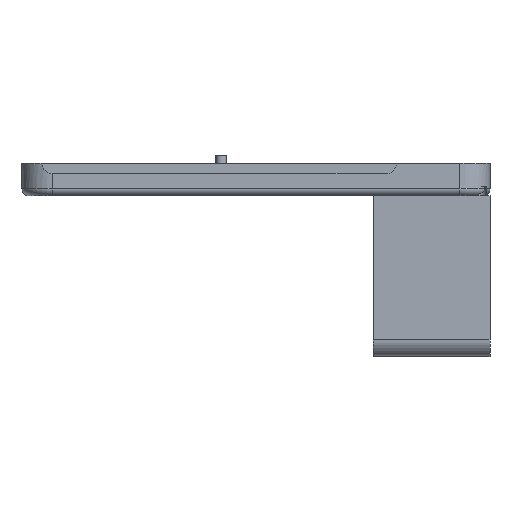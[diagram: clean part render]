
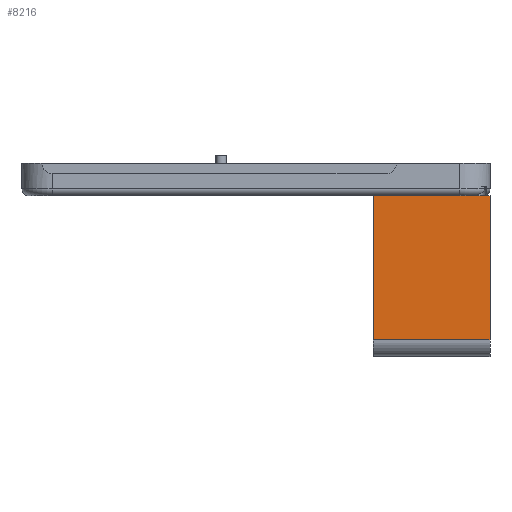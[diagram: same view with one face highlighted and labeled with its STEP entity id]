
A CAD part, left-side view. The second image highlights one B-rep face of the part: STEP entity #8216.
In plain terms, the highlighted planar face has unit normal (-1, 0, 0).
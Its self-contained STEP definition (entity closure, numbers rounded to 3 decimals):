
#126 = CYLINDRICAL_SURFACE('',#127,2.);
#127 = AXIS2_PLACEMENT_3D('',#128,#129,#130);
#128 = CARTESIAN_POINT('',(66.5,-178.3,-7.));
#129 = DIRECTION('',(1.,0.,0.));
#130 = DIRECTION('',(0.,-1.,-0.));
#357 = VERTEX_POINT('',#358);
#358 = CARTESIAN_POINT('',(68.,-178.3,-9.));
#372 = PLANE('',#373);
#373 = AXIS2_PLACEMENT_3D('',#374,#375,#376);
#374 = CARTESIAN_POINT('',(149.55,-110.45,-9.));
#375 = DIRECTION('',(0.,0.,1.));
#376 = DIRECTION('',(1.,0.,-0.));
#384 = EDGE_CURVE('',#385,#357,#387,.T.);
#385 = VERTEX_POINT('',#386);
#386 = CARTESIAN_POINT('',(68.,-178.5,-8.99));
#387 = SURFACE_CURVE('',#388,(#393,#400),.PCURVE_S1.);
#388 = CIRCLE('',#389,2.);
#389 = AXIS2_PLACEMENT_3D('',#390,#391,#392);
#390 = CARTESIAN_POINT('',(68.,-178.3,-7.));
#391 = DIRECTION('',(1.,0.,0.));
#392 = DIRECTION('',(0.,-1.,-0.));
#393 = PCURVE('',#126,#394);
#394 = DEFINITIONAL_REPRESENTATION('',(#395),#399);
#395 = LINE('',#396,#397);
#396 = CARTESIAN_POINT('',(0.,1.5));
#397 = VECTOR('',#398,1.);
#398 = DIRECTION('',(1.,0.));
#399 = ( GEOMETRIC_REPRESENTATION_CONTEXT(2) 
PARAMETRIC_REPRESENTATION_CONTEXT() REPRESENTATION_CONTEXT('2D SPACE',''
  ) );
#400 = PCURVE('',#401,#406);
#401 = PLANE('',#402);
#402 = AXIS2_PLACEMENT_3D('',#403,#404,#405);
#403 = CARTESIAN_POINT('',(68.,-180.3,-57.));
#404 = DIRECTION('',(1.,0.,0.));
#405 = DIRECTION('',(0.,0.,1.));
#406 = DEFINITIONAL_REPRESENTATION('',(#407),#411);
#407 = CIRCLE('',#408,2.);
#408 = AXIS2_PLACEMENT_2D('',#409,#410);
#409 = CARTESIAN_POINT('',(50.,-2.));
#410 = DIRECTION('',(0.,1.));
#411 = ( GEOMETRIC_REPRESENTATION_CONTEXT(2) 
PARAMETRIC_REPRESENTATION_CONTEXT() REPRESENTATION_CONTEXT('2D SPACE',''
  ) );
#428 = PLANE('',#429);
#429 = AXIS2_PLACEMENT_3D('',#430,#431,#432);
#430 = CARTESIAN_POINT('',(68.,-180.3,-8.99));
#431 = DIRECTION('',(0.,0.,1.));
#432 = DIRECTION('',(1.,0.,0.));
#3134 = EDGE_CURVE('',#357,#3135,#3137,.T.);
#3135 = VERTEX_POINT('',#3136);
#3136 = CARTESIAN_POINT('',(68.,-145.5,-9.));
#3137 = SURFACE_CURVE('',#3138,(#3142,#3148),.PCURVE_S1.);
#3138 = LINE('',#3139,#3140);
#3139 = CARTESIAN_POINT('',(68.,-145.375,-9.));
#3140 = VECTOR('',#3141,1.);
#3141 = DIRECTION('',(0.,1.,0.));
#3142 = PCURVE('',#372,#3143);
#3143 = DEFINITIONAL_REPRESENTATION('',(#3144),#3147);
#3144 = B_SPLINE_CURVE_WITH_KNOTS('',1,(#3145,#3146),.UNSPECIFIED.,.F.,
  .F.,(2,2),(-32.925,-0.125),.PIECEWISE_BEZIER_KNOTS.);
#3145 = CARTESIAN_POINT('',(-81.55,-67.85));
#3146 = CARTESIAN_POINT('',(-81.55,-35.05));
#3147 = ( GEOMETRIC_REPRESENTATION_CONTEXT(2) 
PARAMETRIC_REPRESENTATION_CONTEXT() REPRESENTATION_CONTEXT('2D SPACE',''
  ) );
#3148 = PCURVE('',#401,#3149);
#3149 = DEFINITIONAL_REPRESENTATION('',(#3150),#3153);
#3150 = B_SPLINE_CURVE_WITH_KNOTS('',1,(#3151,#3152),.UNSPECIFIED.,.F.,
  .F.,(2,2),(-32.925,-0.125),.PIECEWISE_BEZIER_KNOTS.);
#3151 = CARTESIAN_POINT('',(48.,-2.));
#3152 = CARTESIAN_POINT('',(48.,-34.8));
#3153 = ( GEOMETRIC_REPRESENTATION_CONTEXT(2) 
PARAMETRIC_REPRESENTATION_CONTEXT() REPRESENTATION_CONTEXT('2D SPACE',''
  ) );
#3170 = PLANE('',#3171);
#3171 = AXIS2_PLACEMENT_3D('',#3172,#3173,#3174);
#3172 = CARTESIAN_POINT('',(68.,-145.5,-57.));
#3173 = DIRECTION('',(0.,1.,0.));
#3174 = DIRECTION('',(0.,0.,1.));
#6794 = PLANE('',#6795);
#6795 = AXIS2_PLACEMENT_3D('',#6796,#6797,#6798);
#6796 = CARTESIAN_POINT('',(68.,-180.3,-57.));
#6797 = DIRECTION('',(0.,1.,0.));
#6798 = DIRECTION('',(0.,0.,1.));
#8171 = EDGE_CURVE('',#8172,#385,#8174,.T.);
#8172 = VERTEX_POINT('',#8173);
#8173 = CARTESIAN_POINT('',(68.,-180.3,-8.99));
#8174 = SURFACE_CURVE('',#8175,(#8179,#8186),.PCURVE_S1.);
#8175 = LINE('',#8176,#8177);
#8176 = CARTESIAN_POINT('',(68.,-180.3,-8.99));
#8177 = VECTOR('',#8178,1.);
#8178 = DIRECTION('',(0.,1.,0.));
#8179 = PCURVE('',#428,#8180);
#8180 = DEFINITIONAL_REPRESENTATION('',(#8181),#8185);
#8181 = LINE('',#8182,#8183);
#8182 = CARTESIAN_POINT('',(0.,0.));
#8183 = VECTOR('',#8184,1.);
#8184 = DIRECTION('',(0.,1.));
#8185 = ( GEOMETRIC_REPRESENTATION_CONTEXT(2) 
PARAMETRIC_REPRESENTATION_CONTEXT() REPRESENTATION_CONTEXT('2D SPACE',''
  ) );
#8186 = PCURVE('',#401,#8187);
#8187 = DEFINITIONAL_REPRESENTATION('',(#8188),#8192);
#8188 = LINE('',#8189,#8190);
#8189 = CARTESIAN_POINT('',(48.01,0.));
#8190 = VECTOR('',#8191,1.);
#8191 = DIRECTION('',(0.,-1.));
#8192 = ( GEOMETRIC_REPRESENTATION_CONTEXT(2) 
PARAMETRIC_REPRESENTATION_CONTEXT() REPRESENTATION_CONTEXT('2D SPACE',''
  ) );
#8216 = ADVANCED_FACE('',(#8217),#401,.F.);
#8217 = FACE_BOUND('',#8218,.F.);
#8218 = EDGE_LOOP('',(#8219,#8242,#8270,#8291,#8292,#8293));
#8219 = ORIENTED_EDGE('',*,*,#8220,.F.);
#8220 = EDGE_CURVE('',#8221,#8172,#8223,.T.);
#8221 = VERTEX_POINT('',#8222);
#8222 = CARTESIAN_POINT('',(68.,-180.3,-52.));
#8223 = SURFACE_CURVE('',#8224,(#8228,#8235),.PCURVE_S1.);
#8224 = LINE('',#8225,#8226);
#8225 = CARTESIAN_POINT('',(68.,-180.3,-57.));
#8226 = VECTOR('',#8227,1.);
#8227 = DIRECTION('',(0.,0.,1.));
#8228 = PCURVE('',#401,#8229);
#8229 = DEFINITIONAL_REPRESENTATION('',(#8230),#8234);
#8230 = LINE('',#8231,#8232);
#8231 = CARTESIAN_POINT('',(0.,0.));
#8232 = VECTOR('',#8233,1.);
#8233 = DIRECTION('',(1.,0.));
#8234 = ( GEOMETRIC_REPRESENTATION_CONTEXT(2) 
PARAMETRIC_REPRESENTATION_CONTEXT() REPRESENTATION_CONTEXT('2D SPACE',''
  ) );
#8235 = PCURVE('',#6794,#8236);
#8236 = DEFINITIONAL_REPRESENTATION('',(#8237),#8241);
#8237 = LINE('',#8238,#8239);
#8238 = CARTESIAN_POINT('',(0.,0.));
#8239 = VECTOR('',#8240,1.);
#8240 = DIRECTION('',(1.,0.));
#8241 = ( GEOMETRIC_REPRESENTATION_CONTEXT(2) 
PARAMETRIC_REPRESENTATION_CONTEXT() REPRESENTATION_CONTEXT('2D SPACE',''
  ) );
#8242 = ORIENTED_EDGE('',*,*,#8243,.T.);
#8243 = EDGE_CURVE('',#8221,#8244,#8246,.T.);
#8244 = VERTEX_POINT('',#8245);
#8245 = CARTESIAN_POINT('',(68.,-145.5,-52.));
#8246 = SURFACE_CURVE('',#8247,(#8251,#8258),.PCURVE_S1.);
#8247 = LINE('',#8248,#8249);
#8248 = CARTESIAN_POINT('',(68.,-180.3,-52.));
#8249 = VECTOR('',#8250,1.);
#8250 = DIRECTION('',(0.,1.,0.));
#8251 = PCURVE('',#401,#8252);
#8252 = DEFINITIONAL_REPRESENTATION('',(#8253),#8257);
#8253 = LINE('',#8254,#8255);
#8254 = CARTESIAN_POINT('',(5.,0.));
#8255 = VECTOR('',#8256,1.);
#8256 = DIRECTION('',(0.,-1.));
#8257 = ( GEOMETRIC_REPRESENTATION_CONTEXT(2) 
PARAMETRIC_REPRESENTATION_CONTEXT() REPRESENTATION_CONTEXT('2D SPACE',''
  ) );
#8258 = PCURVE('',#8259,#8264);
#8259 = CYLINDRICAL_SURFACE('',#8260,5.);
#8260 = AXIS2_PLACEMENT_3D('',#8261,#8262,#8263);
#8261 = CARTESIAN_POINT('',(73.,-180.3,-52.));
#8262 = DIRECTION('',(0.,1.,0.));
#8263 = DIRECTION('',(-1.,0.,0.));
#8264 = DEFINITIONAL_REPRESENTATION('',(#8265),#8269);
#8265 = LINE('',#8266,#8267);
#8266 = CARTESIAN_POINT('',(-0.,0.));
#8267 = VECTOR('',#8268,1.);
#8268 = DIRECTION('',(-0.,1.));
#8269 = ( GEOMETRIC_REPRESENTATION_CONTEXT(2) 
PARAMETRIC_REPRESENTATION_CONTEXT() REPRESENTATION_CONTEXT('2D SPACE',''
  ) );
#8270 = ORIENTED_EDGE('',*,*,#8271,.T.);
#8271 = EDGE_CURVE('',#8244,#3135,#8272,.T.);
#8272 = SURFACE_CURVE('',#8273,(#8277,#8284),.PCURVE_S1.);
#8273 = LINE('',#8274,#8275);
#8274 = CARTESIAN_POINT('',(68.,-145.5,-57.));
#8275 = VECTOR('',#8276,1.);
#8276 = DIRECTION('',(0.,0.,1.));
#8277 = PCURVE('',#401,#8278);
#8278 = DEFINITIONAL_REPRESENTATION('',(#8279),#8283);
#8279 = LINE('',#8280,#8281);
#8280 = CARTESIAN_POINT('',(0.,-34.8));
#8281 = VECTOR('',#8282,1.);
#8282 = DIRECTION('',(1.,0.));
#8283 = ( GEOMETRIC_REPRESENTATION_CONTEXT(2) 
PARAMETRIC_REPRESENTATION_CONTEXT() REPRESENTATION_CONTEXT('2D SPACE',''
  ) );
#8284 = PCURVE('',#3170,#8285);
#8285 = DEFINITIONAL_REPRESENTATION('',(#8286),#8290);
#8286 = LINE('',#8287,#8288);
#8287 = CARTESIAN_POINT('',(0.,0.));
#8288 = VECTOR('',#8289,1.);
#8289 = DIRECTION('',(1.,0.));
#8290 = ( GEOMETRIC_REPRESENTATION_CONTEXT(2) 
PARAMETRIC_REPRESENTATION_CONTEXT() REPRESENTATION_CONTEXT('2D SPACE',''
  ) );
#8291 = ORIENTED_EDGE('',*,*,#3134,.F.);
#8292 = ORIENTED_EDGE('',*,*,#384,.F.);
#8293 = ORIENTED_EDGE('',*,*,#8171,.F.);
